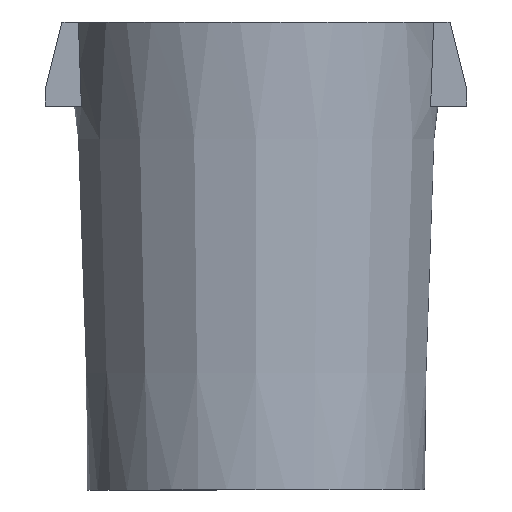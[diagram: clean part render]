
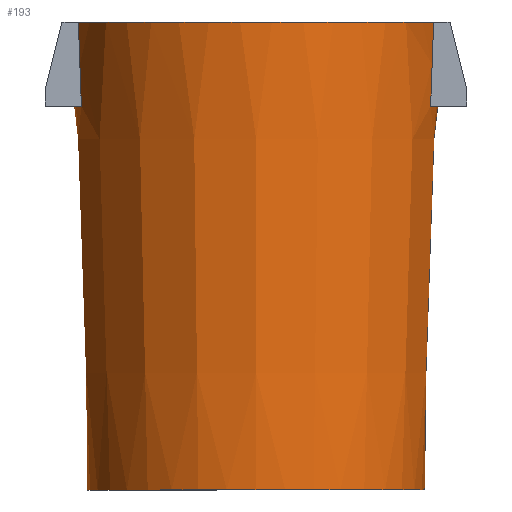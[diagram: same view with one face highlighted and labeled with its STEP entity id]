
A CAD part, left-side view. The second image highlights one B-rep face of the part: STEP entity #193.
In plain terms, the highlighted conical face has half-angle 1.98 degrees and reference radius 254 mm.
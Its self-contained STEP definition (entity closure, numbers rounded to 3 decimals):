
#24 = VERTEX_POINT('',#25);
#25 = CARTESIAN_POINT('',(-76.2,267.748,705.358));
#31 = EDGE_CURVE('',#24,#32,#34,.T.);
#32 = VERTEX_POINT('',#33);
#33 = CARTESIAN_POINT('',(-76.2,263.181,578.358));
#34 = HYPERBOLA('',#35,2204.605,76.2);
#35 = AXIS2_PLACEMENT_3D('',#36,#37,#38);
#36 = CARTESIAN_POINT('',(-76.2,0.,-7348.685)
  );
#37 = DIRECTION('',(1.,0.,-0.));
#38 = DIRECTION('',(0.,0.,1.));
#73 = VERTEX_POINT('',#74);
#74 = CARTESIAN_POINT('',(76.2,267.748,705.358));
#87 = EDGE_CURVE('',#88,#24,#90,.T.);
#88 = VERTEX_POINT('',#89);
#89 = CARTESIAN_POINT('',(-76.2,-267.748,705.358));
#90 = CIRCLE('',#91,278.38);
#91 = AXIS2_PLACEMENT_3D('',#92,#93,#94);
#92 = CARTESIAN_POINT('',(0.,0.,705.358));
#93 = DIRECTION('',(0.,0.,-1.));
#94 = DIRECTION('',(1.,0.,0.));
#113 = VERTEX_POINT('',#114);
#114 = CARTESIAN_POINT('',(76.2,-267.748,705.358));
#120 = EDGE_CURVE('',#121,#113,#123,.T.);
#121 = VERTEX_POINT('',#122);
#122 = CARTESIAN_POINT('',(278.38,0.,705.358));
#123 = CIRCLE('',#124,278.38);
#124 = AXIS2_PLACEMENT_3D('',#125,#126,#127);
#125 = CARTESIAN_POINT('',(0.,0.,705.358));
#126 = DIRECTION('',(0.,0.,-1.));
#127 = DIRECTION('',(1.,0.,0.));
#129 = EDGE_CURVE('',#73,#121,#130,.T.);
#130 = CIRCLE('',#131,278.38);
#131 = AXIS2_PLACEMENT_3D('',#132,#133,#134);
#132 = CARTESIAN_POINT('',(0.,0.,705.358));
#133 = DIRECTION('',(0.,0.,-1.));
#134 = DIRECTION('',(1.,0.,0.));
#193 = ADVANCED_FACE('',(#194),#257,.T.);
#194 = FACE_BOUND('',#195,.F.);
#195 = EDGE_LOOP('',(#196,#205,#211,#212,#221,#228,#229,#230,#239,#248,
    #255,#256));
#196 = ORIENTED_EDGE('',*,*,#197,.T.);
#197 = EDGE_CURVE('',#198,#198,#200,.T.);
#198 = VERTEX_POINT('',#199);
#199 = CARTESIAN_POINT('',(254.,0.,0.));
#200 = CIRCLE('',#201,254.);
#201 = AXIS2_PLACEMENT_3D('',#202,#203,#204);
#202 = CARTESIAN_POINT('',(0.,0.,0.));
#203 = DIRECTION('',(0.,0.,-1.));
#204 = DIRECTION('',(1.,0.,0.));
#205 = ORIENTED_EDGE('',*,*,#206,.T.);
#206 = EDGE_CURVE('',#198,#121,#207,.T.);
#207 = LINE('',#208,#209);
#208 = CARTESIAN_POINT('',(254.,0.,0.));
#209 = VECTOR('',#210,1.);
#210 = DIRECTION('',(0.035,0.,
    0.999));
#211 = ORIENTED_EDGE('',*,*,#129,.F.);
#212 = ORIENTED_EDGE('',*,*,#213,.F.);
#213 = EDGE_CURVE('',#214,#73,#216,.T.);
#214 = VERTEX_POINT('',#215);
#215 = CARTESIAN_POINT('',(76.2,263.181,578.358));
#216 = HYPERBOLA('',#217,2204.605,76.2);
#217 = AXIS2_PLACEMENT_3D('',#218,#219,#220);
#218 = CARTESIAN_POINT('',(76.2,0.,-7348.685)
  );
#219 = DIRECTION('',(-1.,0.,0.));
#220 = DIRECTION('',(0.,0.,1.));
#221 = ORIENTED_EDGE('',*,*,#222,.T.);
#222 = EDGE_CURVE('',#214,#32,#223,.T.);
#223 = CIRCLE('',#224,273.99);
#224 = AXIS2_PLACEMENT_3D('',#225,#226,#227);
#225 = CARTESIAN_POINT('',(0.,0.,578.358));
#226 = DIRECTION('',(-0.,0.,1.));
#227 = DIRECTION('',(1.,0.,0.));
#228 = ORIENTED_EDGE('',*,*,#31,.F.);
#229 = ORIENTED_EDGE('',*,*,#87,.F.);
#230 = ORIENTED_EDGE('',*,*,#231,.T.);
#231 = EDGE_CURVE('',#88,#232,#234,.T.);
#232 = VERTEX_POINT('',#233);
#233 = CARTESIAN_POINT('',(-76.2,-263.181,578.358));
#234 = HYPERBOLA('',#235,2204.605,76.2);
#235 = AXIS2_PLACEMENT_3D('',#236,#237,#238);
#236 = CARTESIAN_POINT('',(-76.2,0.,-7348.685)
  );
#237 = DIRECTION('',(-1.,0.,0.));
#238 = DIRECTION('',(0.,0.,1.));
#239 = ORIENTED_EDGE('',*,*,#240,.T.);
#240 = EDGE_CURVE('',#232,#241,#243,.T.);
#241 = VERTEX_POINT('',#242);
#242 = CARTESIAN_POINT('',(76.2,-263.181,578.358));
#243 = CIRCLE('',#244,273.99);
#244 = AXIS2_PLACEMENT_3D('',#245,#246,#247);
#245 = CARTESIAN_POINT('',(0.,0.,578.358));
#246 = DIRECTION('',(-0.,0.,1.));
#247 = DIRECTION('',(1.,0.,0.));
#248 = ORIENTED_EDGE('',*,*,#249,.T.);
#249 = EDGE_CURVE('',#241,#113,#250,.T.);
#250 = HYPERBOLA('',#251,2204.605,76.2);
#251 = AXIS2_PLACEMENT_3D('',#252,#253,#254);
#252 = CARTESIAN_POINT('',(76.2,0.,-7348.685)
  );
#253 = DIRECTION('',(1.,0.,-0.));
#254 = DIRECTION('',(0.,0.,1.));
#255 = ORIENTED_EDGE('',*,*,#120,.F.);
#256 = ORIENTED_EDGE('',*,*,#206,.F.);
#257 = CONICAL_SURFACE('',#258,254.,0.035);
#258 = AXIS2_PLACEMENT_3D('',#259,#260,#261);
#259 = CARTESIAN_POINT('',(0.,0.,0.));
#260 = DIRECTION('',(0.,0.,1.));
#261 = DIRECTION('',(1.,0.,0.));
